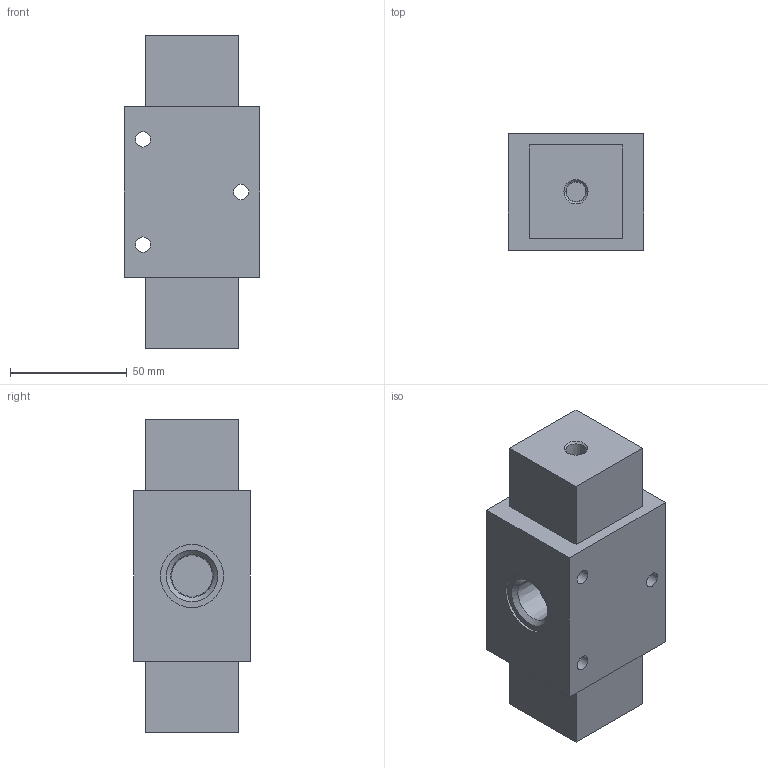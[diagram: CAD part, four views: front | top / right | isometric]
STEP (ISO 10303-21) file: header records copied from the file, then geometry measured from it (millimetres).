
FILE_DESCRIPTION(/* description */ ('V. 3/2 PNEUM.-PNEUM. PER ALTE TEMP.'),/* implementation_level */ '2;1');
FILE_NAME(/* name */ 'I:\Area Tecnica\Progetti\P118 (OIL&GAS)\DOCUMENTAZIONE\CATALOGO\VALVOLE INOX\LIBRERIA - SS VALV INOX\VALV SS12 NPT\SS1232#####-\SS1232C1111#.stp',/* time_stamp */ '2016-06-14T08:09:55+02:00',/* author */ ('Maniean1'),/* organization */ ('Pneumax S.p.A.'),/* preprocessor_version */ 'ST-DEVELOPER v15.2',/* originating_system */ 'Autodesk Inventor 2014',/* authorisation */ '');
FILE_SCHEMA (('AUTOMOTIVE_DESIGN { 1 0 10303 214 3 1 1 }'));
Length unit declared in the file: millimetre
Products named in the file (1): SS1232C1111#
Bounding box: 58 x 50 x 134 mm (x, y, z)
Volume: 290203.6 mm3; surface area: 37069.3 mm2
Topology: 1 solids, 1 shells, 43 faces, 96 edges, 65 vertices
Faces by surface type: plane 24, cone 10, cylinder 9
Full cylindrical faces by diameter (mm): 6.5 x3, 17.475 x3, 27 x3
Entity records: 1046 total; most frequent: DIRECTION 184, CARTESIAN_POINT 164, ORIENTED_EDGE 132, EDGE_LOOP 78, AXIS2_PLACEMENT_3D 74, EDGE_CURVE 66, VERTEX_POINT 54, FACE_BOUND 46
